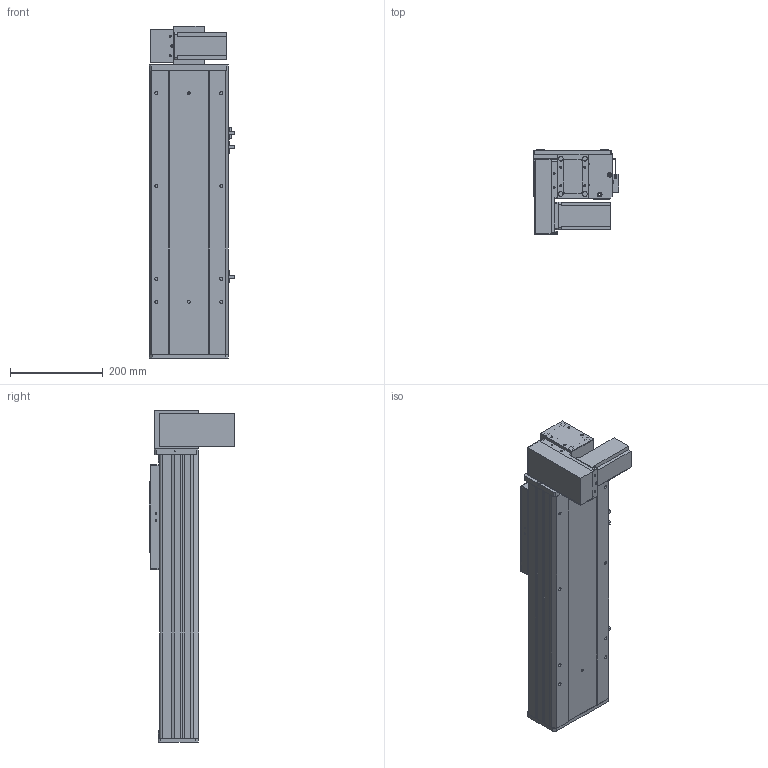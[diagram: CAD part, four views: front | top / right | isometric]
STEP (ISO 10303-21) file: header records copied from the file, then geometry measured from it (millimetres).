
FILE_DESCRIPTION (( 'STEP AP203' ), '1' );
FILE_NAME ('Y170CB-D105-S300-BM-P400W.STEP', '2020-02-20T06:09:34', ( '微软用户' ), ( '微软中国' ), 'SwSTEP 2.0', 'SolidWorks 2017', '' );
FILE_SCHEMA (( 'CONFIG_CONTROL_DESIGN' ));
Length unit declared in the file: millimetre
Products named in the file (18): --70CB --喘謫眊楊擘啣-; Y1埴倛裔; 70CB-耜裔啣-; 17B-耜蚾蟀諉啣----; 70C--詩湍揤踡え-; 00B-俋欶BM--163; 70CB--耜裔; 70B喘謫眊----; 70C-雄赽釱-奻-; B-源倛裔啣; Y170CB-D105-S300-BM-P400W; 0C--雄赽釱俋欶-170; 0B-萇儂楊擘啣; 70CB-詩湍--; san松下电机400不带刹车----; Y100-135俋离換覜ん--; 70CB-掛极-; Y170CB-陔俋离換覜結え---
Assembly tree (21 placements, depth 2):
  Y170CB-D105-S300-BM-P400W
    B-源倛裔啣
    0B-萇儂楊擘啣
    san松下电机400不带刹车----
    70CB-掛极-
    --70CB --喘謫眊楊擘啣-
    70CB-耜裔啣-  x2
    70C--詩湍揤踡え-  x2
    70CB--耜裔
    70C-雄赽釱-奻-
    0C--雄赽釱俋欶-170
    70CB-詩湍--
    Y100-135俋离換覜ん--  x3
    Y170CB-陔俋离換覜結え---
    Y1埴倛裔
    17B-耜蚾蟀諉啣----
    00B-俋欶BM--163
    70B喘謫眊----
Bounding box: 183.5 x 184 x 716 mm (x, y, z)
Volume: 3782777.3 mm3; surface area: 1340469.7 mm2
Topology: 21 solids, 21 shells, 983 faces, 2621 edges, 1738 vertices
Faces by surface type: cylinder 497, plane 462, cone 24
Entity records: 31160 total; most frequent: CARTESIAN_POINT 5676, DIRECTION 5066, ORIENTED_EDGE 4724, EDGE_CURVE 2362, AXIS2_PLACEMENT_3D 1848, VERTEX_POINT 1568, LINE 1370, VECTOR 1370
